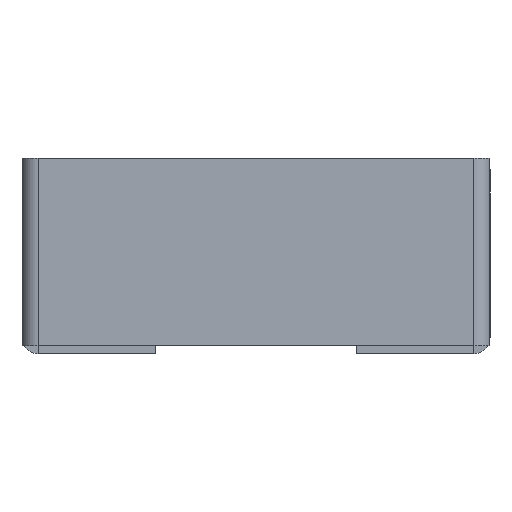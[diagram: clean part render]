
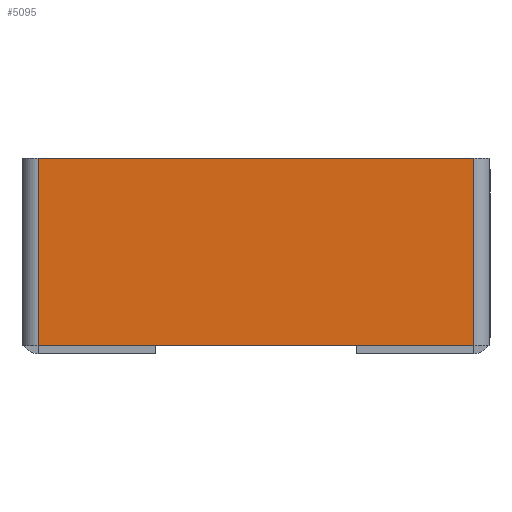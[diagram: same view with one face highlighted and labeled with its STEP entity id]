
A CAD part, front view. The second image highlights one B-rep face of the part: STEP entity #5095.
In plain terms, the highlighted planar face has unit normal (0, -1, 0).
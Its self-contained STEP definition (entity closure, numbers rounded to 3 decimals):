
#176 = CARTESIAN_POINT ( 'NONE',  ( -67.5, -2.5, -58. ) ) ;
#251 = CARTESIAN_POINT ( 'NONE',  ( -70., -2.5, -58. ) ) ;
#258 = DIRECTION ( 'NONE',  ( 0., 0., 1. ) ) ;
#346 = DIRECTION ( 'NONE',  ( 0., 0., 1. ) ) ;
#716 = VECTOR ( 'NONE', #6564, 1000. ) ;
#977 = EDGE_CURVE ( 'NONE', #4961, #1574, #10114, .T. ) ;
#1028 = PLANE ( 'NONE',  #3823 ) ;
#1322 = CARTESIAN_POINT ( 'NONE',  ( 67.5, -2.5, 0. ) ) ;
#1463 = VECTOR ( 'NONE', #346, 1000. ) ;
#1574 = VERTEX_POINT ( 'NONE', #176 ) ;
#1640 = CARTESIAN_POINT ( 'NONE',  ( -70., -2.5, 0. ) ) ;
#2383 = CARTESIAN_POINT ( 'NONE',  ( -67.5, -2.5, 0. ) ) ;
#2396 = DIRECTION ( 'NONE',  ( 1., 0., 0. ) ) ;
#2574 = DIRECTION ( 'NONE',  ( 0., 1., 0. ) ) ;
#3250 = VECTOR ( 'NONE', #7955, 1000. ) ;
#3442 = CARTESIAN_POINT ( 'NONE',  ( 0., -2.5, 0. ) ) ;
#3561 = LINE ( 'NONE', #7502, #1463 ) ;
#3772 = ORIENTED_EDGE ( 'NONE', *, *, #9649, .F. ) ;
#3823 = AXIS2_PLACEMENT_3D ( 'NONE', #3442, #2574, #258 ) ;
#4961 = VERTEX_POINT ( 'NONE', #5580 ) ;
#5095 = ADVANCED_FACE ( 'NONE', ( #6918 ), #1028, .F. ) ;
#5285 = EDGE_CURVE ( 'NONE', #4961, #7410, #3561, .T. ) ;
#5568 = ORIENTED_EDGE ( 'NONE', *, *, #5285, .T. ) ;
#5580 = CARTESIAN_POINT ( 'NONE',  ( 67.5, -2.5, -58. ) ) ;
#5789 = VERTEX_POINT ( 'NONE', #9183 ) ;
#6543 = ORIENTED_EDGE ( 'NONE', *, *, #977, .F. ) ;
#6564 = DIRECTION ( 'NONE',  ( -1., 0., 0. ) ) ;
#6918 = FACE_OUTER_BOUND ( 'NONE', #9099, .T. ) ;
#7363 = VECTOR ( 'NONE', #2396, 1000. ) ;
#7410 = VERTEX_POINT ( 'NONE', #1322 ) ;
#7502 = CARTESIAN_POINT ( 'NONE',  ( 67.5, -2.5, -58. ) ) ;
#7711 = LINE ( 'NONE', #2383, #3250 ) ;
#7955 = DIRECTION ( 'NONE',  ( 0., 0., -1. ) ) ;
#8106 = LINE ( 'NONE', #1640, #7363 ) ;
#9099 = EDGE_LOOP ( 'NONE', ( #9297, #6543, #5568, #3772 ) ) ;
#9183 = CARTESIAN_POINT ( 'NONE',  ( -67.5, -2.5, 0. ) ) ;
#9297 = ORIENTED_EDGE ( 'NONE', *, *, #10183, .T. ) ;
#9649 = EDGE_CURVE ( 'NONE', #5789, #7410, #8106, .T. ) ;
#10114 = LINE ( 'NONE', #251, #716 ) ;
#10183 = EDGE_CURVE ( 'NONE', #5789, #1574, #7711, .T. ) ;
